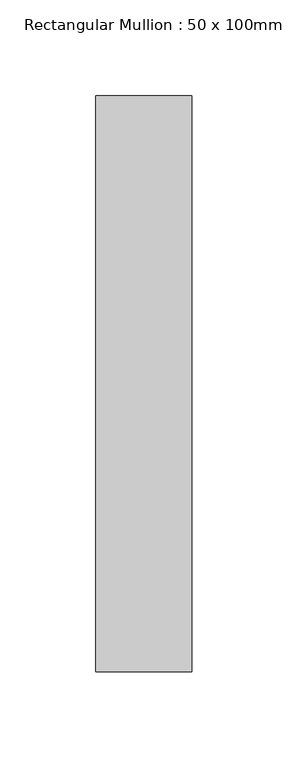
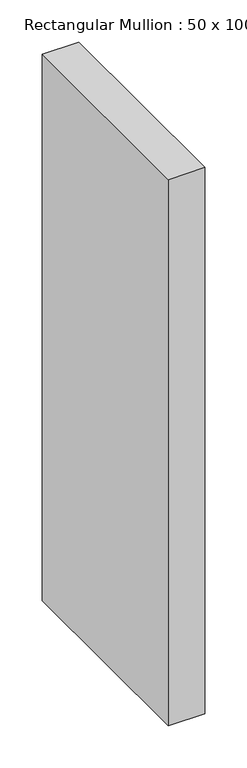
"""IFC4 building model written with IfcOpenShell, lengths in millimetres: member geometry, Rectangular Mullion : 50 x 100mm."""

from ifc_helpers import new_model, si_unit, frame, origin, place, context, project, spatial, polyline, outline, extrude, source, transform, mapped, element, save


def rectangular_mullion_50_x_100mm_c4b412ce(model_context):
    return source(origin(), model_context, "Body", "SweptSolid", [
        extrude(outline(polyline([(0.0, 175.0), (0.0, -125.0), (-50.0, -125.0), (-50.0, 175.0), (0.0, 175.0)])), frame((0.0, 0.0, -792.7583416), z_axis=(0.0, 0.0, 1.0), x_axis=(1.0, 0.0, 0.0)), (0.0, 0.0, 1.0), 792.7583416),
    ])


if __name__ == "__main__":
    model = new_model("IFC4")
    model_context = context("Model", 3, world=origin())
    ifc_project = project(units=[si_unit("LENGTHUNIT", "METRE", prefix="MILLI")], contexts=[model_context])
    site = spatial("IfcSite", under=ifc_project)
    building = spatial("IfcBuilding", under=site)
    placement = place(None, origin())
    rectangular_mullion_50_x_100mm_shape = rectangular_mullion_50_x_100mm_c4b412ce(model_context)
    element("IfcMember", 1, ObjectType="Rectangular Mullion : 50 x 100mm", at=placement, inside=building, context=model_context, shape_type="MappedRepresentation", body=[
        mapped(rectangular_mullion_50_x_100mm_shape, transform((0.0, 0.0, 0.0), x_axis=(1.0, 0.0, 0.0), y_axis=(0.0, 1.0, 0.0), z_axis=(0.0, 0.0, 1.0))),
    ])
    save(model, "model.ifc")
